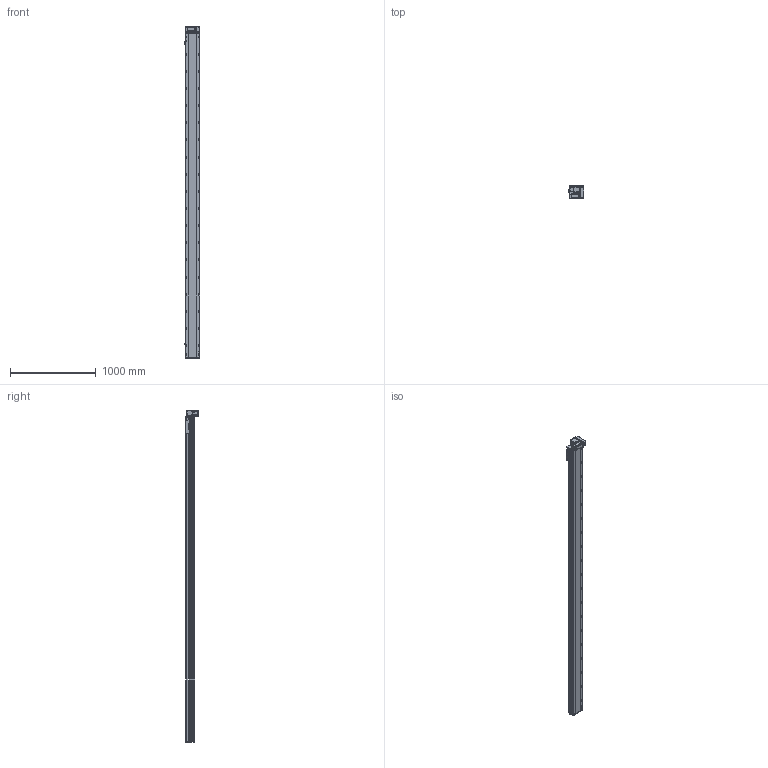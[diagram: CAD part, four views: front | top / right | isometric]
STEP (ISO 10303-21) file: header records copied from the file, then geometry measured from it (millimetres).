
FILE_DESCRIPTION (( 'STEP AP214' ), '1' );
FILE_NAME ('RTB17S-XX-3500-RM-M40-C4.STEP', '2025-12-11T08:39:26', ( '' ), ( '' ), 'SwSTEP 2.0', 'SolidWorks 2018', '' );
FILE_SCHEMA (( 'AUTOMOTIVE_DESIGN' ));
Length unit declared in the file: millimetre
Products named in the file (14): RTB14-L-018P^RTB17S-RM-々湍釱蚾饜-400W_RTB17S-XX-XX-RM-M40-C4; RTB14-L-017P^RTB17S-RM-々湍釱蚾饜-400W_RTB17S-XX-XX-RM-M40-C4; RTB17S-RM-々湍釱蚾饜-400W^RTB17S-XX-XX-RM-M40-C4; RTB17S-XX-3500-RM-M40-C4; RTB17-R-011菁釱^RTB17S-XX-XX-RM-M40-C4; RTB14-L-008-M20--萇儂啣^RTB17S-RM-々湍釱蚾饜-400W_RTB17S-XX-XX-RM-M40-C4; 400W侜督萇儂^RTB17S-XX-XX-RM-M40-C4; OMRON EE-SX672 传感器^RTB17S-XX-XX-RM-M40-C4; RTB14-L-005P--轴承塑胶压盖^RTB17S-RM-皮带座装配-400W_RTB17S-XX-XX-RM-M40-C4; RTB17S-L-004佪裝蹟譫蟀諉釱^RTB17S-XX-XX-RM-M40-C4; RTB17S-L-007奻裔^RTB17S-XX-XX-RM-M40-C4; RTB17S-L-001耜醱啣^RTB17S-XX-XX-RM-M40-C4; RTH13-BL-012覜茼え俋离^RTB17S-XX-XX-RM-M40-C4; RTB17S-L-014-T20--々湍釱^RTB17S-RM-々湍釱蚾饜-400W_RTB17S-XX-XX-RM-M40-C4
Assembly tree (16 placements, depth 3):
  RTB17S-XX-3500-RM-M40-C4
    RTB17-R-011菁釱^RTB17S-XX-XX-RM-M40-C4
    RTB17S-L-007奻裔^RTB17S-XX-XX-RM-M40-C4
    OMRON EE-SX672 传感器^RTB17S-XX-XX-RM-M40-C4  x3
    RTB17S-L-001耜醱啣^RTB17S-XX-XX-RM-M40-C4
    400W侜督萇儂^RTB17S-XX-XX-RM-M40-C4
    RTB17S-L-004佪裝蹟譫蟀諉釱^RTB17S-XX-XX-RM-M40-C4
    RTH13-BL-012覜茼え俋离^RTB17S-XX-XX-RM-M40-C4
    RTB17S-RM-々湍釱蚾饜-400W^RTB17S-XX-XX-RM-M40-C4
      RTB17S-L-014-T20--々湍釱^RTB17S-RM-々湍釱蚾饜-400W_RTB17S-XX-XX-RM-M40-C4
      RTB14-L-005P--轴承塑胶压盖^RTB17S-RM-皮带座装配-400W_RTB17S-XX-XX-RM-M40-C4
      RTB14-L-008-M20--萇儂啣^RTB17S-RM-々湍釱蚾饜-400W_RTB17S-XX-XX-RM-M40-C4
      RTB14-L-017P^RTB17S-RM-々湍釱蚾饜-400W_RTB17S-XX-XX-RM-M40-C4  x2
      RTB14-L-018P^RTB17S-RM-々湍釱蚾饜-400W_RTB17S-XX-XX-RM-M40-C4
Bounding box: 183.5 x 156.5 x 3872.5 mm (x, y, z)
Volume: 32759005.9 mm3; surface area: 3722192.6 mm2
Topology: 15 solids, 15 shells, 2413 faces, 6789 edges, 4437 vertices
Faces by surface type: plane 1094, cylinder 871, bspline 301, cone 139, torus 8
Entity records: 72617 total; most frequent: CARTESIAN_POINT 20794, ORIENTED_EDGE 10422, DIRECTION 9566, EDGE_CURVE 5211, VERTEX_POINT 3425, AXIS2_PLACEMENT_3D 3355, LINE 2856, VECTOR 2856
